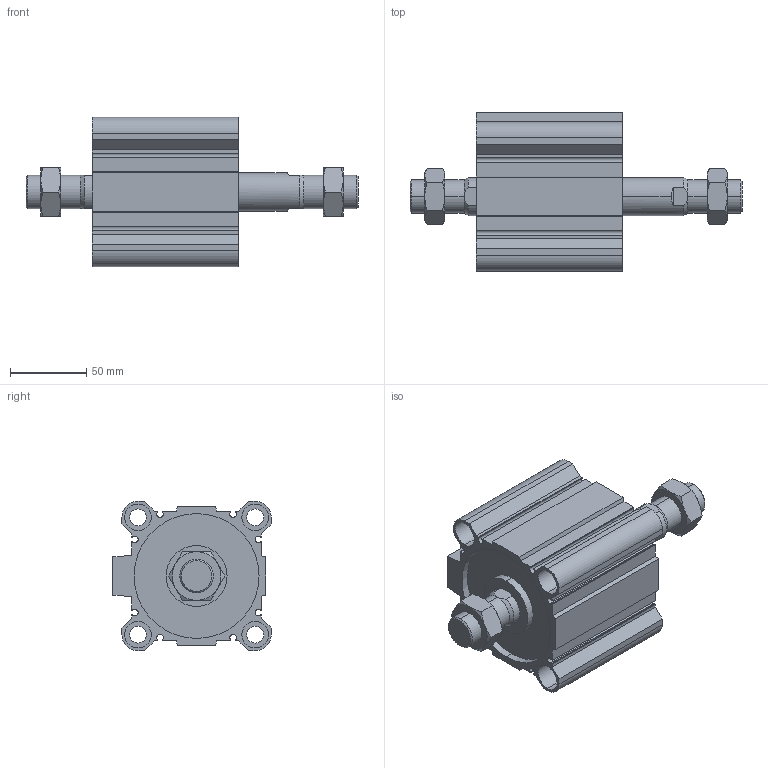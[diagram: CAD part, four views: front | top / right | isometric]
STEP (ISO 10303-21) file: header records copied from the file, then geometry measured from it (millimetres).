
FILE_DESCRIPTION (( 'STEP AP203' ), '1' );
FILE_NAME ('CCMB80-35M-P.STEP', '2020-08-10T11:54:23', ( '' ), ( '' ), 'SwSTEP 2.0', 'SolidWorks 2019', '' );
FILE_SCHEMA (( 'CONFIG_CONTROL_DESIGN' ));
Length unit declared in the file: millimetre
Products named in the file (1): CCMB80-35M-P
Bounding box: 218 x 104 x 98 mm (x, y, z)
Volume: 612879 mm3; surface area: 152459.7 mm2
Topology: 4 solids, 4 shells, 228 faces, 558 edges, 356 vertices
Faces by surface type: plane 106, cylinder 78, cone 44
Entity records: 7569 total; most frequent: CARTESIAN_POINT 2055, DIRECTION 1148, ORIENTED_EDGE 1116, EDGE_CURVE 558, AXIS2_PLACEMENT_3D 425, VERTEX_POINT 356, VECTOR 298, LINE 298
